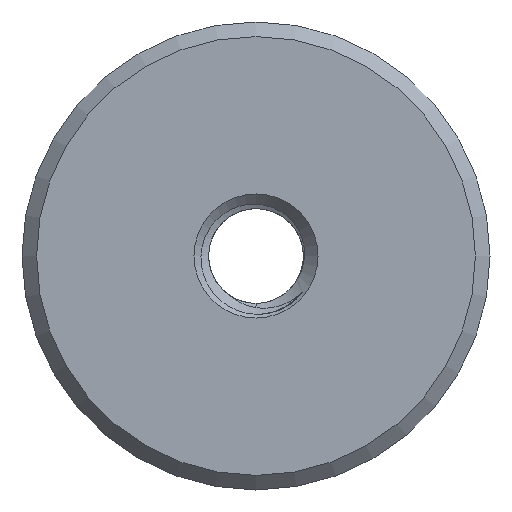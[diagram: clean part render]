
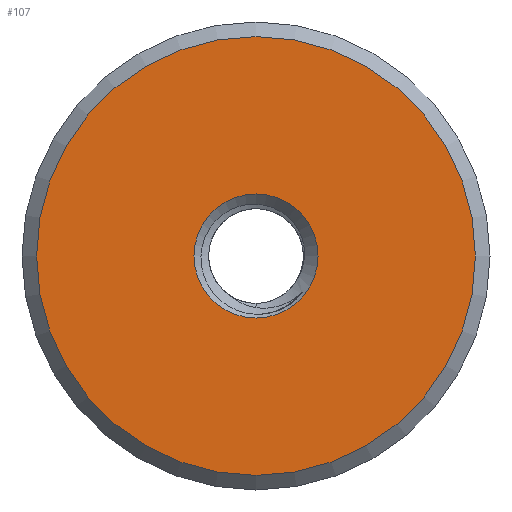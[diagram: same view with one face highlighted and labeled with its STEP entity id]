
A CAD part, left-side view. The second image highlights one B-rep face of the part: STEP entity #107.
In plain terms, the highlighted planar face has unit normal (-1, 0, 0).
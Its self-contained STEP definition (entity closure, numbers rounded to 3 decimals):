
#107=ADVANCED_FACE('',(#3182,#3184),#3186,.T.);
#3182=FACE_BOUND('',#3183,.T.);
#3183=EDGE_LOOP('',(#3638));
#3184=FACE_BOUND('',#3185,.T.);
#3185=EDGE_LOOP('',(#3639));
#3186=PLANE('',#3187);
#3187=AXIS2_PLACEMENT_3D('',#3188,#3189,#3190);
#3188=CARTESIAN_POINT('',(0.,0.,0.));
#3189=DIRECTION('',(-1.,0.,0.));
#3190=DIRECTION('',(0.,0.,-1.));
#3638=ORIENTED_EDGE('',*,*,#3689,.T.);
#3639=ORIENTED_EDGE('',*,*,#3677,.T.);
#3677=EDGE_CURVE('',#3719,#3719,#3720,.F.);
#3689=EDGE_CURVE('',#3739,#3739,#3740,.T.);
#3719=VERTEX_POINT('',#4025);
#3720=CIRCLE('',#4026,2.121);
#3739=VERTEX_POINT('',#5051);
#3740=CIRCLE('',#5052,7.5);
#4025=CARTESIAN_POINT('',(0.,0.,-2.121));
#4026=AXIS2_PLACEMENT_3D('',#4027,#4028,#4029);
#4027=CARTESIAN_POINT('',(0.,0.,0.));
#4028=DIRECTION('',(-1.,0.,0.));
#4029=DIRECTION('',(0.,0.,-1.));
#5051=CARTESIAN_POINT('',(0.,0.,-7.5));
#5052=AXIS2_PLACEMENT_3D('',#5053,#5054,#5055);
#5053=CARTESIAN_POINT('',(0.,0.,0.));
#5054=DIRECTION('',(-1.,0.,0.));
#5055=DIRECTION('',(0.,0.,-1.));
